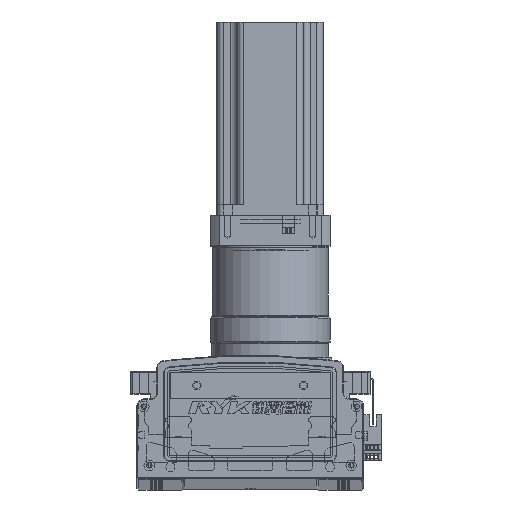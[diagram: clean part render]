
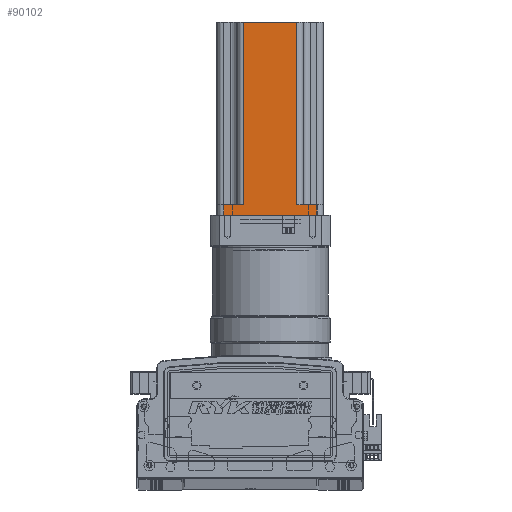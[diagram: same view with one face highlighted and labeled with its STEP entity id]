
A CAD part, top view. The second image highlights one B-rep face of the part: STEP entity #90102.
In plain terms, the highlighted planar face has unit normal (0, 0, 1) as drawn and (0, -1, 0) by its records, which use the part's own axes.
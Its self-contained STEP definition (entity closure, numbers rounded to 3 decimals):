
#17997 = EDGE_LOOP ( 'NONE', ( #75811, #75816, #75785, #75654, #75704, #75736, #75755, #75760 ) ) ;
#36885 = VECTOR ( 'NONE', #103011, 1000. ) ;
#36945 = LINE ( 'NONE', #102994, #36885 ) ;
#38640 = VERTEX_POINT ( 'NONE', #102754 ) ;
#44836 = EDGE_CURVE ( 'NONE', #38640, #100097, #36945, .T. ) ;
#44956 = EDGE_CURVE ( 'NONE', #100097, #99884, #53459, .T. ) ;
#44968 = EDGE_CURVE ( 'NONE', #100797, #124254, #53478, .T. ) ;
#44970 = EDGE_CURVE ( 'NONE', #123983, #124254, #53486, .T. ) ;
#44979 = EDGE_CURVE ( 'NONE', #123983, #100774, #53485, .T. ) ;
#45033 = EDGE_CURVE ( 'NONE', #100824, #38640, #53549, .T. ) ;
#45045 = EDGE_CURVE ( 'NONE', #100797, #99884, #53534, .T. ) ;
#45139 = EDGE_CURVE ( 'NONE', #100824, #100774, #53623, .T. ) ;
#53459 = LINE ( 'NONE', #103259, #53483 ) ;
#53475 = VECTOR ( 'NONE', #103306, 1000. ) ;
#53478 = LINE ( 'NONE', #103300, #53480 ) ;
#53480 = VECTOR ( 'NONE', #103227, 1000. ) ;
#53483 = VECTOR ( 'NONE', #103298, 1000. ) ;
#53485 = LINE ( 'NONE', #103304, #53488 ) ;
#53486 = LINE ( 'NONE', #103309, #53475 ) ;
#53488 = VECTOR ( 'NONE', #103314, 1000. ) ;
#53513 = VECTOR ( 'NONE', #103515, 1000. ) ;
#53534 = LINE ( 'NONE', #103495, #53567 ) ;
#53549 = LINE ( 'NONE', #103517, #53513 ) ;
#53567 = VECTOR ( 'NONE', #103538, 1000. ) ;
#53610 = VECTOR ( 'NONE', #103733, 1000. ) ;
#53623 = LINE ( 'NONE', #103753, #53610 ) ;
#55679 = CARTESIAN_POINT ( 'NONE',  ( -12.587, -40.37, 8. ) ) ;
#55793 = CARTESIAN_POINT ( 'NONE',  ( -12.587, -40.37, 0. ) ) ;
#55805 = CARTESIAN_POINT ( 'NONE',  ( -82.587, -40.37, 8. ) ) ;
#55809 = CARTESIAN_POINT ( 'NONE',  ( -67.587, -40.37, 8. ) ) ;
#55838 = CARTESIAN_POINT ( 'NONE',  ( -27.587, -40.37, 8. ) ) ;
#75654 = ORIENTED_EDGE ( 'NONE', *, *, #44956, .T. ) ;
#75704 = ORIENTED_EDGE ( 'NONE', *, *, #45045, .F. ) ;
#75736 = ORIENTED_EDGE ( 'NONE', *, *, #44968, .T. ) ;
#75755 = ORIENTED_EDGE ( 'NONE', *, *, #44970, .F. ) ;
#75760 = ORIENTED_EDGE ( 'NONE', *, *, #44979, .T. ) ;
#75785 = ORIENTED_EDGE ( 'NONE', *, *, #44836, .T. ) ;
#75811 = ORIENTED_EDGE ( 'NONE', *, *, #45139, .F. ) ;
#75816 = ORIENTED_EDGE ( 'NONE', *, *, #45033, .T. ) ;
#90102 = ADVANCED_FACE ( 'NONE', ( #107633 ), #104115, .F. ) ;
#99884 = VERTEX_POINT ( 'NONE', #55679 ) ;
#100097 = VERTEX_POINT ( 'NONE', #55793 ) ;
#100774 = VERTEX_POINT ( 'NONE', #55809 ) ;
#100797 = VERTEX_POINT ( 'NONE', #55838 ) ;
#100824 = VERTEX_POINT ( 'NONE', #55805 ) ;
#102754 = CARTESIAN_POINT ( 'NONE',  ( -82.587, -40.37, 0. ) ) ;
#102994 = CARTESIAN_POINT ( 'NONE',  ( -87.587, -40.37, 0. ) ) ;
#103011 = DIRECTION ( 'NONE',  ( 1., 0., 0. ) ) ;
#103227 = DIRECTION ( 'NONE',  ( 0., 0., 1. ) ) ;
#103259 = CARTESIAN_POINT ( 'NONE',  ( -12.587, -40.37, 145. ) ) ;
#103298 = DIRECTION ( 'NONE',  ( 0., 0., 1. ) ) ;
#103300 = CARTESIAN_POINT ( 'NONE',  ( -27.587, -40.37, 145. ) ) ;
#103304 = CARTESIAN_POINT ( 'NONE',  ( -67.587, -40.37, 145. ) ) ;
#103306 = DIRECTION ( 'NONE',  ( 1., 0., 0. ) ) ;
#103309 = CARTESIAN_POINT ( 'NONE',  ( -87.587, -40.37, 145. ) ) ;
#103314 = DIRECTION ( 'NONE',  ( 0., 0., -1. ) ) ;
#103495 = CARTESIAN_POINT ( 'NONE',  ( -7.587, -40.37, 8. ) ) ;
#103515 = DIRECTION ( 'NONE',  ( 0., 0., -1. ) ) ;
#103517 = CARTESIAN_POINT ( 'NONE',  ( -82.587, -40.37, 145. ) ) ;
#103538 = DIRECTION ( 'NONE',  ( 1., 0., 0. ) ) ;
#103733 = DIRECTION ( 'NONE',  ( 1., 0., 0. ) ) ;
#103753 = CARTESIAN_POINT ( 'NONE',  ( -87.587, -40.37, 8. ) ) ;
#104115 = PLANE ( 'NONE',  #119773 ) ;
#104130 = DIRECTION ( 'NONE',  ( 0., 1., 0. ) ) ;
#104154 = DIRECTION ( 'NONE',  ( -1., 0., 0. ) ) ;
#104160 = CARTESIAN_POINT ( 'NONE',  ( -87.587, -40.37, 145. ) ) ;
#107633 = FACE_OUTER_BOUND ( 'NONE', #17997, .T. ) ;
#119773 = AXIS2_PLACEMENT_3D ( 'NONE', #104160, #104130, #104154 ) ;
#123983 = VERTEX_POINT ( 'NONE', #130803 ) ;
#124254 = VERTEX_POINT ( 'NONE', #130807 ) ;
#130803 = CARTESIAN_POINT ( 'NONE',  ( -67.587, -40.37, 145. ) ) ;
#130807 = CARTESIAN_POINT ( 'NONE',  ( -27.587, -40.37, 145. ) ) ;
